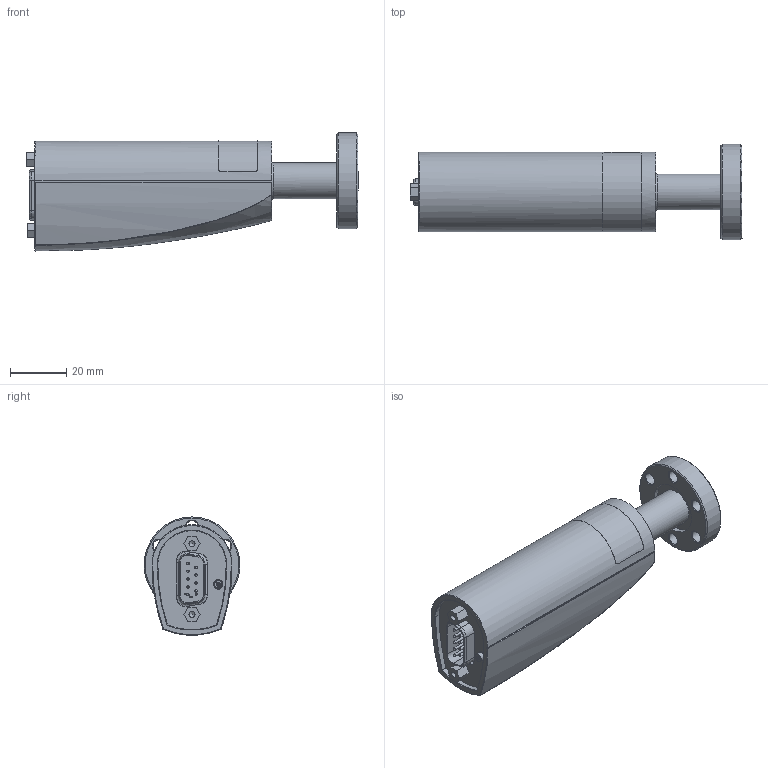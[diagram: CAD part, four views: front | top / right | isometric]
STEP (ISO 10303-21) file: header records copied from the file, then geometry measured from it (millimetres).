
FILE_DESCRIPTION(/* description */ (''),/* implementation_level */ '2;1');
FILE_NAME(/* name */ 'W:\308-750_Porter\CDG020D_16-CF_9Dsub.stp',/* time_stamp */ '2016-05-12T09:59:54+02:00',/* author */ ('BEM'),/* organization */ (''),/* preprocessor_version */ 'ST-DEVELOPER v15.2',/* originating_system */ 'Autodesk Inventor 2014',/* authorisation */ '');
FILE_SCHEMA (('AUTOMOTIVE_DESIGN { 1 0 10303 214 3 1 1 }'));
Length unit declared in the file: millimetre
Products named in the file (1): Bauteil2
Bounding box: 117.89 x 34 x 41.91 mm (x, y, z)
Volume: 36337.1 mm3; surface area: 34834.2 mm2
Topology: 2 solids, 3 shells, 578 faces, 1588 edges, 1020 vertices
Faces by surface type: plane 382, cylinder 126, cone 30, torus 24, sphere 11, bspline 5
Full cylindrical faces by diameter (mm): 0.9 x18, 1.1 x1, 2.013 x2, 2.156 x2, 2.845 x2, 3 x3, 3.2 x3, 4.3 x6, 10.2 x2, 12.7 x1, 13.5 x1, 14 x1, 16 x1, 17.5 x1, 18.6 x1, 21.3 x1, 21.4 x1, 23 x1, 34 x1
Entity records: 18576 total; most frequent: CARTESIAN_POINT 3564, DIRECTION 2934, ORIENTED_EDGE 2922, EDGE_CURVE 1459, LINE 1042, VECTOR 1042, VERTEX_POINT 987, AXIS2_PLACEMENT_3D 946
